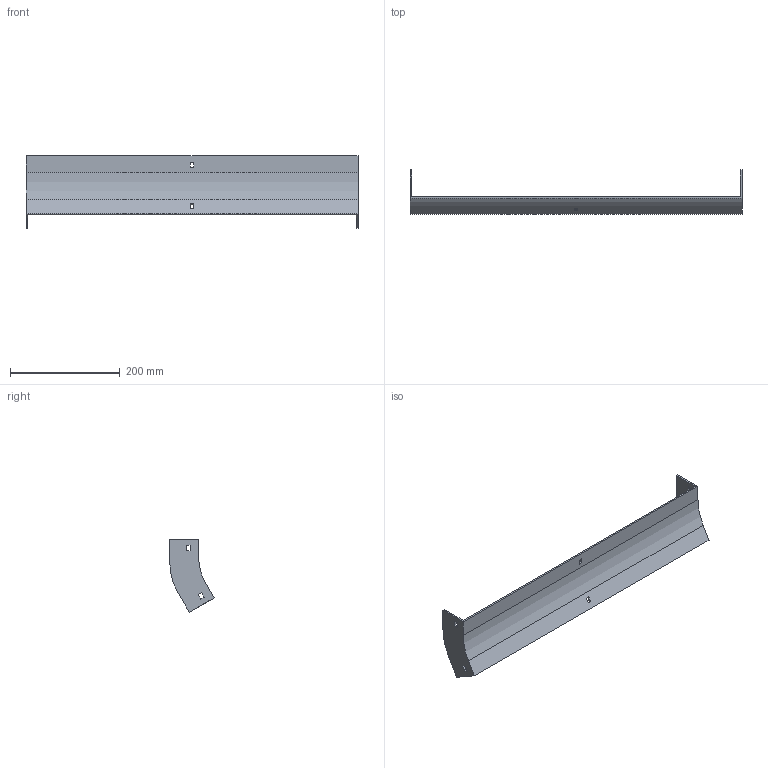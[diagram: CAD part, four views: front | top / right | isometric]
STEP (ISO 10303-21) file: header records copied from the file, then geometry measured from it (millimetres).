
FILE_DESCRIPTION (( 'STEP AP214' ), '1' );
FILE_NAME ('35F1B600.step', '2025-02-21T12:49:41', ( '' ), ( '' ), 'SwSTEP 2.0', 'SolidWorks 2023', '' );
FILE_SCHEMA (( 'AUTOMOTIVE_DESIGN' ));
Length unit declared in the file: millimetre
Products named in the file (1): 35F1B600
Bounding box: 604 x 80.4 x 131.98 mm (x, y, z)
Volume: 281719.5 mm3; surface area: 167557.8 mm2
Topology: 1 solids, 1 shells, 42 faces, 120 edges, 80 vertices
Faces by surface type: plane 38, cylinder 4
Entity records: 1399 total; most frequent: CARTESIAN_POINT 243, ORIENTED_EDGE 240, DIRECTION 214, EDGE_CURVE 120, LINE 112, VECTOR 112, VERTEX_POINT 80, EDGE_LOOP 54
